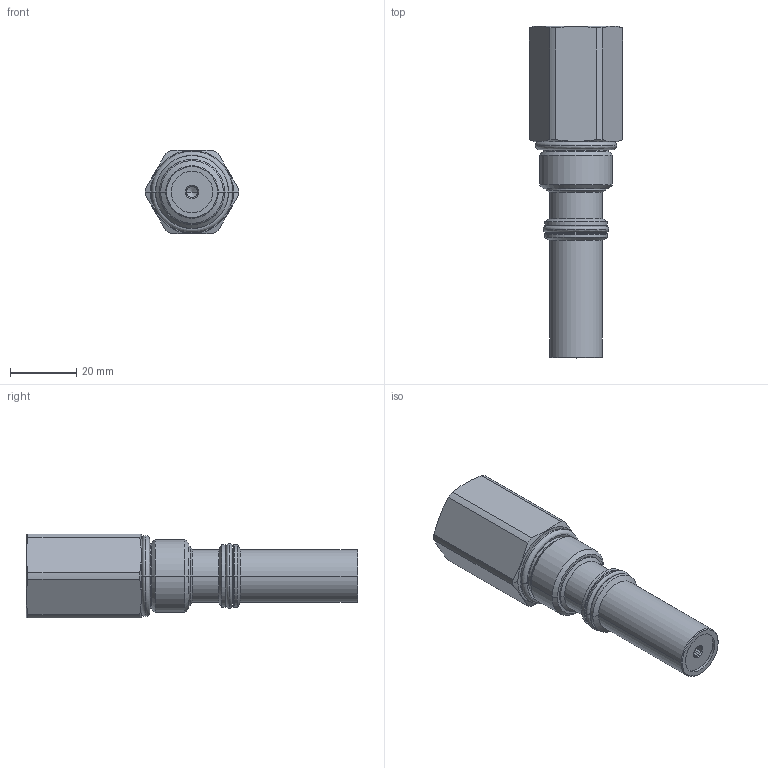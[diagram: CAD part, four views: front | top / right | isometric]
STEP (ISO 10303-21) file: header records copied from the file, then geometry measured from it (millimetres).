
FILE_DESCRIPTION((''),'2;1');
FILE_NAME('5614500_SW0001','2009-05-29T',('jcs'),(''),'PRO/ENGINEER BY PARAMETRIC TECHNOLOGY CORPORATION, 2008510','PRO/ENGINEER BY PARAMETRIC TECHNOLOGY CORPORATION, 2008510','');
FILE_SCHEMA(('CONFIG_CONTROL_DESIGN'));
Length unit declared in the file: inch
Products named in the file (1): 5614500_SW0001
Bounding box: 28.19 x 100.41 x 25.4 mm (x, y, z)
Volume: 33103.1 mm3; surface area: 9437.1 mm2
Topology: 3 solids, 3 shells, 120 faces, 270 edges, 157 vertices
Faces by surface type: cylinder 36, cone 30, plane 26, revolution 16, torus 12
Entity records: 3806 total; most frequent: CARTESIAN_POINT 1083, DIRECTION 584, ORIENTED_EDGE 536, EDGE_CURVE 268, AXIS2_PLACEMENT_3D 236, VERTEX_POINT 157, CIRCLE 132, EDGE_LOOP 127
